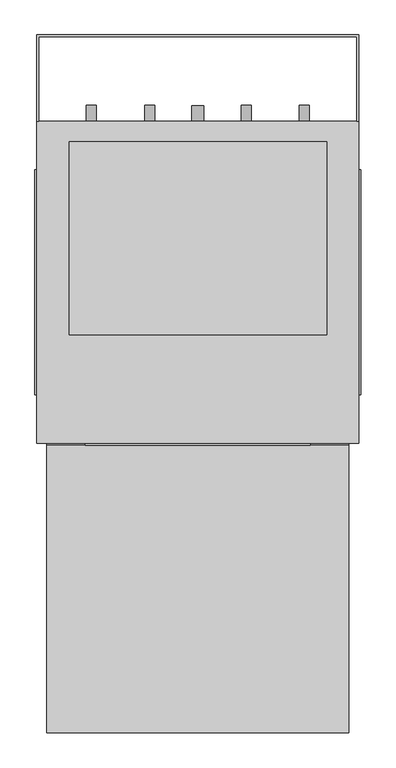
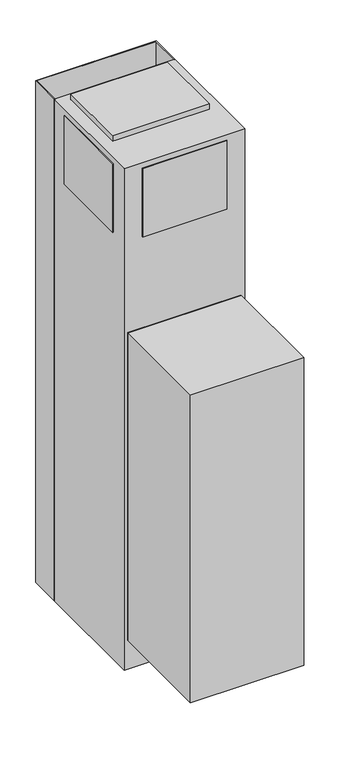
"""IFC4 building model written with IfcOpenShell, lengths in millimetres: proxy geometry, Exposed_Modular_Fan_Coil_Unit_-_42SHA_-_CARRIER_-_4-Pipe_-_NoRisers_2022 : Size 06 - 277v/60Hz/1Ph - 4/1 Coil."""

from ifc_helpers import new_model, si_unit, point, frame, frame_2d, origin, origin_with_axes, place, context, project, spatial, polyline, circle_curve, trimmed, segment, composite_curve, outline, extrude, source, transform, mapped, element, save


def mechanical_equipment_90048839(model_context):
    return source(origin(), model_context, "Body", "SweptSolid", [
        extrude(outline(polyline([(644.525, -266.7), (644.525, -720.725), (168.275, -720.725), (168.275, -266.7), (644.525, -266.7)])), frame((0.0, 0.0, 127.0), z_axis=(0.0, 0.0, 1.0), x_axis=(1.0, 0.0, 0.0)), (0.0, 0.0, 1.0), 1371.6),
        extrude(outline(polyline([(152.4, 381.0), (660.4, 381.0), (660.4, 244.475), (657.225, 244.475), (657.225, 377.825), (155.575, 377.825), (155.575, 244.475), (152.4, 244.475), (152.4, 381.0)])), origin_with_axes(), (0.0, 0.0, 1.0), 2235.2),
        extrude(outline(composite_curve([segment(trimmed(circle_curve(frame_2d((990.6, 482.6)), 7.9375), [point((990.6, 490.5375))], [point((990.6, 474.6625))], False, "CARTESIAN"), True, "CONTINUOUS"), segment(trimmed(circle_curve(frame_2d((990.6, 482.6)), 7.9375), [point((990.6, 474.6625))], [point((990.6, 490.5375))], False, "CARTESIAN"), True, "CONTINUOUS")], self_intersect=False)), frame((0.0, 244.475, 0.0), z_axis=(0.0, 1.0, 0.0), x_axis=(0.0, 0.0, 1.0)), (0.0, 0.0, 1.0), 25.4),
        extrude(outline(composite_curve([segment(trimmed(circle_curve(frame_2d((990.6, 330.2)), 7.9375), [point((990.6, 338.1375))], [point((990.6, 322.2625))], False, "CARTESIAN"), True, "CONTINUOUS"), segment(trimmed(circle_curve(frame_2d((990.6, 330.2)), 7.9375), [point((990.6, 322.2625))], [point((990.6, 338.1375))], False, "CARTESIAN"), True, "CONTINUOUS")], self_intersect=False)), frame((0.0, 244.475, 0.0), z_axis=(0.0, 1.0, 0.0), x_axis=(0.0, 0.0, 1.0)), (0.0, 0.0, 1.0), 25.4),
        extrude(outline(composite_curve([segment(trimmed(circle_curve(frame_2d((76.2, 406.4)), 9.525), [point((76.2, 415.925))], [point((76.2, 396.875))], False, "CARTESIAN"), True, "CONTINUOUS"), segment(trimmed(circle_curve(frame_2d((76.2, 406.4)), 9.525), [point((76.2, 396.875))], [point((76.2, 415.925))], False, "CARTESIAN"), True, "CONTINUOUS")], self_intersect=False)), frame((0.0, 244.475, 0.0), z_axis=(0.0, 1.0, 0.0), x_axis=(0.0, 0.0, 1.0)), (0.0, 0.0, 1.0), 25.4),
        extrude(outline(composite_curve([segment(trimmed(circle_curve(frame_2d((990.6, 574.675)), 7.9375), [point((990.6, 582.6125))], [point((990.6, 566.7375))], False, "CARTESIAN"), True, "CONTINUOUS"), segment(trimmed(circle_curve(frame_2d((990.6, 574.675)), 7.9375), [point((990.6, 566.7375))], [point((990.6, 582.6125))], False, "CARTESIAN"), True, "CONTINUOUS")], self_intersect=False)), frame((0.0, 244.475, 0.0), z_axis=(0.0, 1.0, 0.0), x_axis=(0.0, 0.0, 1.0)), (0.0, 0.0, 1.0), 25.4),
        extrude(outline(composite_curve([segment(trimmed(circle_curve(frame_2d((990.6, 238.125)), 7.9375), [point((990.6, 246.0625))], [point((990.6, 230.1875))], False, "CARTESIAN"), True, "CONTINUOUS"), segment(trimmed(circle_curve(frame_2d((990.6, 238.125)), 7.9375), [point((990.6, 230.1875))], [point((990.6, 246.0625))], False, "CARTESIAN"), True, "CONTINUOUS")], self_intersect=False)), frame((0.0, 244.475, 0.0), z_axis=(0.0, 1.0, 0.0), x_axis=(0.0, 0.0, 1.0)), (0.0, 0.0, 1.0), 25.4),
        extrude(outline(polyline([(644.525, -266.7), (168.275, -266.7), (168.275, -263.525), (644.525, -263.525), (644.525, -266.7)])), frame((0.0, 0.0, 127.0), z_axis=(0.0, 0.0, 1.0), x_axis=(1.0, 0.0, 0.0)), (0.0, 0.0, 1.0), 1371.6),
        extrude(outline(polyline([(663.575, 168.275), (663.575, -187.325), (660.4, -187.325), (660.4, 168.275), (663.575, 168.275)])), frame((0.0, 0.0, 1905.0), z_axis=(0.0, 0.0, 1.0), x_axis=(1.0, 0.0, 0.0)), (0.0, 0.0, 1.0), 304.8),
        extrude(outline(polyline([(149.225, -187.325), (149.225, 168.275), (152.4, 168.275), (152.4, -187.325), (149.225, -187.325)])), frame((0.0, 0.0, 1905.0), z_axis=(0.0, 0.0, 1.0), x_axis=(1.0, 0.0, 0.0)), (0.0, 0.0, 1.0), 304.8),
        extrude(outline(polyline([(584.2, -266.7), (228.6, -266.7), (228.6, -263.525), (584.2, -263.525), (584.2, -266.7)])), frame((0.0, 0.0, 1905.0), z_axis=(0.0, 0.0, 1.0), x_axis=(1.0, 0.0, 0.0)), (0.0, 0.0, 1.0), 304.8),
        extrude(outline(polyline([(609.6, 212.725), (609.6, -92.075), (203.2, -92.075), (203.2, 212.725), (609.6, 212.725)])), frame((0.0, 0.0, 2235.2), z_axis=(0.0, 0.0, 1.0), x_axis=(1.0, 0.0, 0.0)), (0.0, 0.0, 1.0), 25.4),
        extrude(outline(polyline([(660.4, 244.475), (660.4, -263.525), (152.4, -263.525), (152.4, 244.475), (660.4, 244.475)])), origin_with_axes(), (0.0, 0.0, 1.0), 2235.2),
    ])


if __name__ == "__main__":
    model = new_model("IFC4")
    model_context = context("Model", 3, world=origin())
    ifc_project = project(units=[si_unit("LENGTHUNIT", "METRE", prefix="MILLI")], contexts=[model_context])
    site = spatial("IfcSite", under=ifc_project)
    building = spatial("IfcBuilding", under=site)
    placement = place(None, origin())
    mechanical_equipment_shape = mechanical_equipment_90048839(model_context)
    element("IfcBuildingElementProxy", 1, Name="Exposed_Modular_Fan_Coil_Unit_-_42SHA_-_CARRIER_-_4-Pipe_-_NoRisers_2022 : Size 06 - 277v/60Hz/1Ph - 4/1 Coil", ObjectType="Exposed_Modular_Fan_Coil_Unit_-_42SHA_-_CARRIER_-_4-Pipe_-_NoRisers_2022 : Size 06 - 277v/60Hz/1Ph - 4/1 Coil", at=placement, inside=building, context=model_context, shape_type="MappedRepresentation", body=[
        mapped(mechanical_equipment_shape, transform((0.0, 0.0, 0.0), x_axis=(1.0, 0.0, 0.0), y_axis=(0.0, 1.0, 0.0), z_axis=(0.0, 0.0, 1.0))),
    ])
    save(model, "model.ifc")
